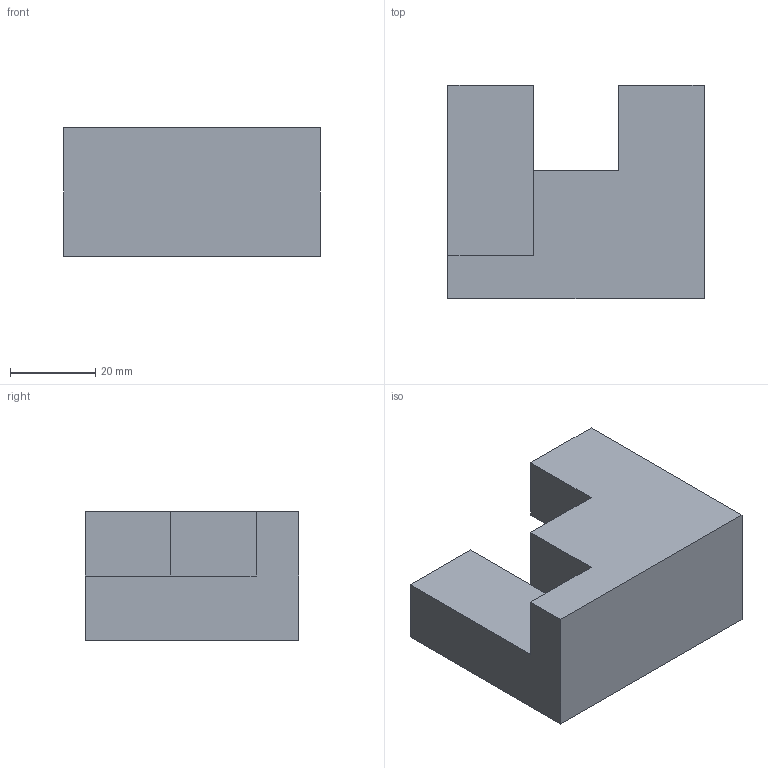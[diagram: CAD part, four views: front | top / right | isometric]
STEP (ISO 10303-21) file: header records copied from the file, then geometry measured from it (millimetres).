
FILE_DESCRIPTION(/* description */ (''),/* implementation_level */ '2;1');
FILE_NAME(/* name */ 'E:\OneDrive\Desktop\N5_GC_Orthographic\3D CAD Models\Task_8.stp',/* time_stamp */ '2020-06-09T12:47:52+01:00',/* author */ ('hunte'),/* organization */ (''),/* preprocessor_version */ 'ST-DEVELOPER v18.1',/* originating_system */ 'Autodesk Inventor 2020',/* authorisation */ '');
FILE_SCHEMA (('AUTOMOTIVE_DESIGN { 1 0 10303 214 3 1 1 }'));
Length unit declared in the file: millimetre
Products named in the file (1): Task_8
Bounding box: 60 x 50 x 30 mm (x, y, z)
Volume: 54000 mm3; surface area: 11800 mm2
Topology: 1 solids, 1 shells, 16 faces, 40 edges, 26 vertices
Faces by surface type: plane 16
Entity records: 509 total; most frequent: CARTESIAN_POINT 83, ORIENTED_EDGE 80, DIRECTION 74, LINE 40, VECTOR 40, EDGE_CURVE 40, VERTEX_POINT 26, AXIS2_PLACEMENT_3D 17
